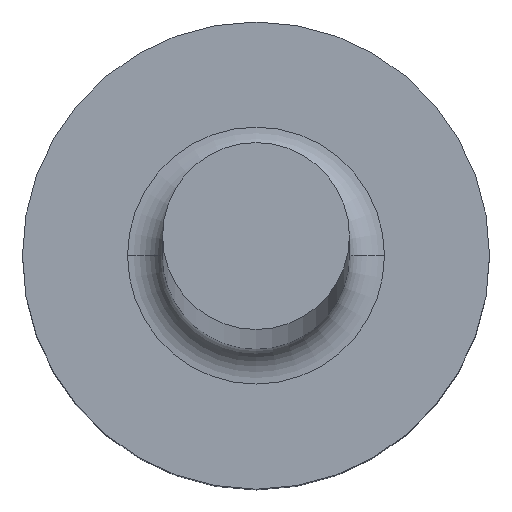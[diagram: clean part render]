
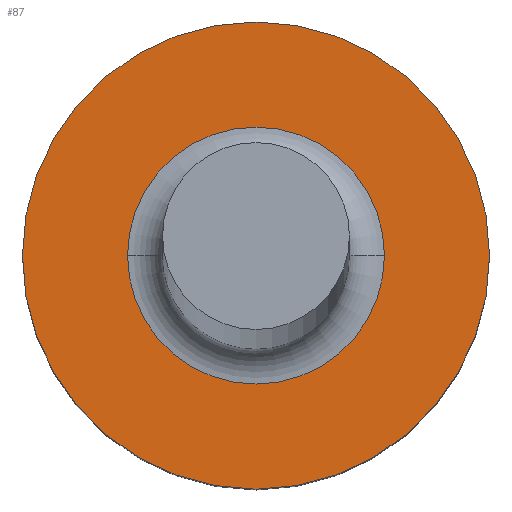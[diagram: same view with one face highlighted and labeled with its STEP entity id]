
A CAD part, top view. The second image highlights one B-rep face of the part: STEP entity #87.
In plain terms, the highlighted planar face has unit normal (0, 0, 1).
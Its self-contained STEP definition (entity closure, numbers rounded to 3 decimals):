
#1 = EDGE_CURVE ( 'NONE', #214, #218, #186, .T. ) ;
#10 = AXIS2_PLACEMENT_3D ( 'NONE', #134, #222, #224 ) ;
#23 = AXIS2_PLACEMENT_3D ( 'NONE', #28, #148, #57 ) ;
#27 = CIRCLE ( 'NONE', #10, 2. ) ;
#28 = CARTESIAN_POINT ( 'NONE',  ( 0., 0., 4. ) ) ;
#29 = CIRCLE ( 'NONE', #143, 1.1 ) ;
#30 = DIRECTION ( 'NONE',  ( 0., 0., -1. ) ) ;
#54 = FACE_BOUND ( 'NONE', #221, .T. ) ;
#57 = DIRECTION ( 'NONE',  ( -1., 0., 0. ) ) ;
#59 = ORIENTED_EDGE ( 'NONE', *, *, #264, .T. ) ;
#64 = DIRECTION ( 'NONE',  ( -1., 0., 0. ) ) ;
#65 = EDGE_CURVE ( 'NONE', #103, #99, #133, .T. ) ;
#78 = CARTESIAN_POINT ( 'NONE',  ( -1.1, 0., 4. ) ) ;
#86 = ORIENTED_EDGE ( 'NONE', *, *, #1, .T. ) ;
#87 = ADVANCED_FACE ( 'NONE', ( #54, #152 ), #227, .F. ) ;
#99 = VERTEX_POINT ( 'NONE', #268 ) ;
#100 = CARTESIAN_POINT ( 'NONE',  ( 2., 0., 4. ) ) ;
#102 = CARTESIAN_POINT ( 'NONE',  ( 0., 0., 4. ) ) ;
#103 = VERTEX_POINT ( 'NONE', #135 ) ;
#111 = EDGE_LOOP ( 'NONE', ( #240, #149 ) ) ;
#120 = DIRECTION ( 'NONE',  ( 0., 0., -1. ) ) ;
#133 = CIRCLE ( 'NONE', #141, 2. ) ;
#134 = CARTESIAN_POINT ( 'NONE',  ( 0., 0., 4. ) ) ;
#135 = CARTESIAN_POINT ( 'NONE',  ( 2., 0., 4. ) ) ;
#141 = AXIS2_PLACEMENT_3D ( 'NONE', #102, #120, #64 ) ;
#143 = AXIS2_PLACEMENT_3D ( 'NONE', #147, #30, #183 ) ;
#147 = CARTESIAN_POINT ( 'NONE',  ( 0., 0., 4. ) ) ;
#148 = DIRECTION ( 'NONE',  ( 0., 0., -1. ) ) ;
#149 = ORIENTED_EDGE ( 'NONE', *, *, #65, .F. ) ;
#151 = AXIS2_PLACEMENT_3D ( 'NONE', #100, #249, #248 ) ;
#152 = FACE_OUTER_BOUND ( 'NONE', #111, .T. ) ;
#183 = DIRECTION ( 'NONE',  ( -1., 0., 0. ) ) ;
#186 = CIRCLE ( 'NONE', #23, 1.1 ) ;
#199 = CARTESIAN_POINT ( 'NONE',  ( 1.1, 0., 4. ) ) ;
#206 = EDGE_CURVE ( 'NONE', #99, #103, #27, .T. ) ;
#214 = VERTEX_POINT ( 'NONE', #78 ) ;
#218 = VERTEX_POINT ( 'NONE', #199 ) ;
#221 = EDGE_LOOP ( 'NONE', ( #86, #59 ) ) ;
#222 = DIRECTION ( 'NONE',  ( 0., 0., -1. ) ) ;
#224 = DIRECTION ( 'NONE',  ( -1., 0., 0. ) ) ;
#227 = PLANE ( 'NONE',  #151 ) ;
#240 = ORIENTED_EDGE ( 'NONE', *, *, #206, .F. ) ;
#248 = DIRECTION ( 'NONE',  ( -1., 0., 0. ) ) ;
#249 = DIRECTION ( 'NONE',  ( 0., 0., -1. ) ) ;
#264 = EDGE_CURVE ( 'NONE', #218, #214, #29, .T. ) ;
#268 = CARTESIAN_POINT ( 'NONE',  ( -2., 0., 4. ) ) ;
